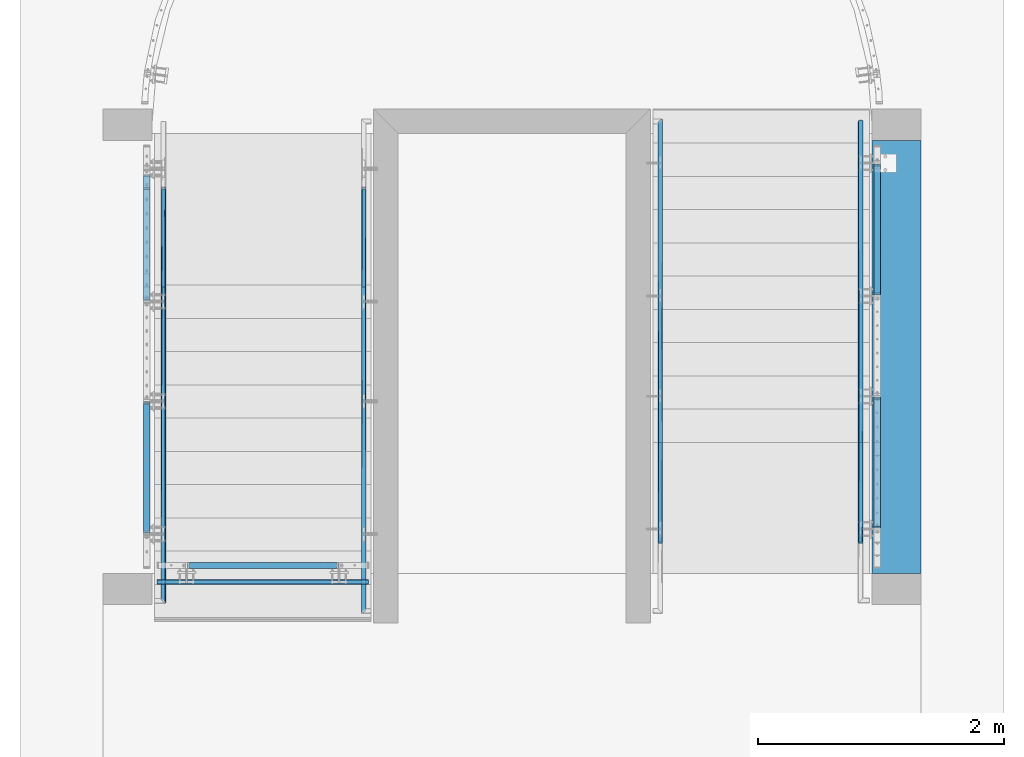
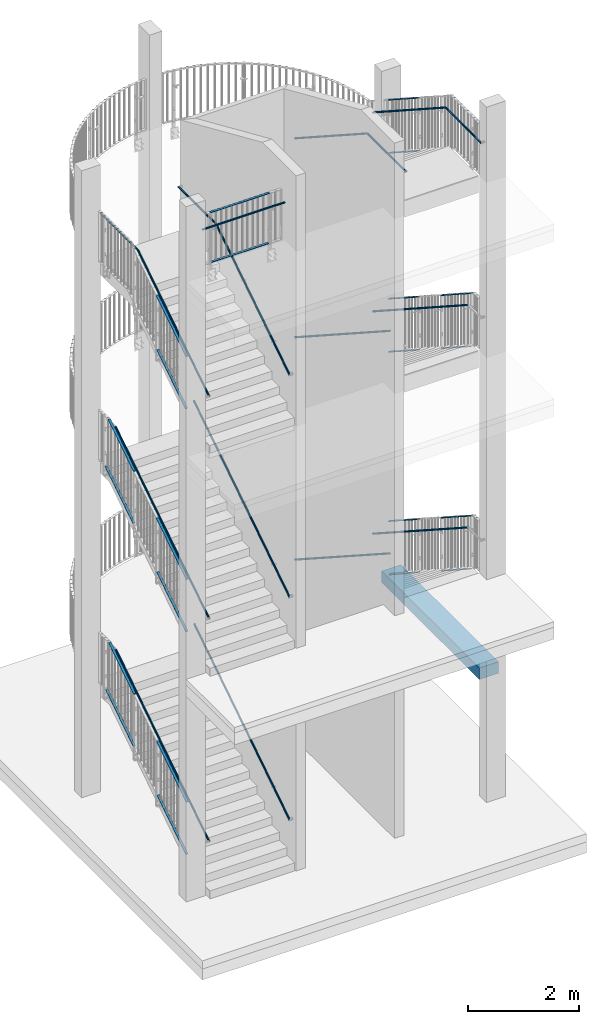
# One storey, part 97 of 296: 32 members, 8 beams, 18 openings.
"""IFC2X3 building model written with IfcOpenShell, lengths in millimetres."""

from ifc_helpers import new_model, entity, si_unit, converted_unit, frame, origin, origin_with_axes, origin_2d, place, context, project, spatial, polyline, rectangle, circle, outline, extrude, clip, halfspace, material, element, save


model = new_model("IFC2X3")

# Units and contexts
model_context = context("Model", 3, precision=1e-09, world=origin_with_axes())
ifc_project = project(units=[si_unit("LENGTHUNIT", "METRE", prefix="MILLI"), si_unit("AREAUNIT", "SQUARE_METRE"), si_unit("VOLUMEUNIT", "CUBIC_METRE"), converted_unit("PLANEANGLEUNIT", "DEGREE", entity("IfcPlaneAngleMeasure", 0.01745329), si_unit("PLANEANGLEUNIT", "RADIAN"), dimensions=[0, 0, 0, 0, 0, 0, 0])], contexts=[model_context])

# Site, building, storey
site_placement = place(None, origin_with_axes())
site = spatial("IfcSite", under=ifc_project, at=site_placement, Name="TZD-S?d | Treppenhausgel?nder", CompositionType="ELEMENT")
building_placement = place(site_placement, origin_with_axes())
building = spatial("IfcBuilding", under=site, at=building_placement, Name="Struktur 1", CompositionType="ELEMENT")
storey_placement = place(building_placement, origin_with_axes())
storey = spatial("IfcBuildingStorey", under=building, at=storey_placement, Name="Default Storey", CompositionType="ELEMENT", Elevation=0.0)

# Beam
ifc_material_1 = material(Name="Buche")
beam_1_placement = place(None, frame((5759.999, -4035.0, 14530.0), z_axis=(0.0, 1.0, 0.0), x_axis=(-1.0, 0.0, 0.0)))
element("IfcBeam", 1, at=beam_1_placement, inside=storey, material=ifc_material_1, Name="Girder", ObjectType="Girder", context=model_context, shape_type="Clipping", body=[
    clip(clip(extrude(circle(Radius=20.0, at=origin_2d()), origin(), (0.0, 0.0, 1.0), 1348.580744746), halfspace(frame((5759.999, -12625.389934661, -2411.226600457), z_axis=(0.0, 0.28335204, -0.959015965), x_axis=(-1.0, 0.0, 0.0)), True)), halfspace(frame((882.500207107, -14530.0, -842.498792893), z_axis=(0.707106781, 0.0, 0.707106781), x_axis=(0.707106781, 0.0, -0.707106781)), True)),
])

# Member, openings
ifc_material_2 = material(Name="S235JR")
member_1_placement = place(None, frame((5894.999, -2339.781959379, 10126.420200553), z_axis=(0.0, -0.839339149, 0.543608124), x_axis=(0.0, 0.543608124, 0.839339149)))
member_1 = element("IfcMember", 2, at=member_1_placement, inside=storey, material=ifc_material_2, Name="Gel?nder", ObjectType="Gel?nder", context=model_context, shape_type="SweptSolid", body=[
    extrude(rectangle(XDim=10.0, YDim=50.0, at=origin_2d()), origin(), (0.0, 0.0, 1.0), 1275.332006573),
])
opening_1_placement = place(member_1_placement, frame((-57.039935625, -125.1, 1289.186750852), z_axis=(0.0, -1.0, 0.0), x_axis=(0.543608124, 0.0, -0.839339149)))
element("IfcOpeningElement", 3, at=opening_1_placement, cuts=member_1, ObjectType="Opening", context=model_context, shape_type="SweptSolid", body=[
    extrude(outline(polyline([(0.0, 0.0), (45.355242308, 0.0), (45.355242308, 97.114539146), (0.0, 97.114539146), (0.0, 0.0)])), origin(), (0.0, 0.0, -1.0), 250.2),
])
opening_2_placement = place(member_1_placement, frame((-22.243971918, -125.1, -11.167075), z_axis=(0.0, -1.0, 0.0), x_axis=(0.543608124, 0.0, -0.839339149)))
element("IfcOpeningElement", 4, at=opening_2_placement, cuts=member_1, ObjectType="Opening", context=model_context, shape_type="SweptSolid", body=[
    extrude(outline(polyline([(0.0, 0.0), (59.906110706, 0.0), (59.906110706, 69.241991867), (0.0, 69.241991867), (0.0, 0.0)])), origin(), (0.0, 0.0, -1.0), 250.2),
])

member_2_placement = place(None, frame((5894.999, -2339.785202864, 5230.957383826), z_axis=(0.0, -0.83975893, 0.542959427), x_axis=(0.0, 0.542959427, 0.83975893)))
member_2 = element("IfcMember", 5, at=member_2_placement, inside=storey, material=ifc_material_2, Name="Gel?nder", ObjectType="Gel?nder", context=model_context, shape_type="SweptSolid", body=[
    extrude(rectangle(XDim=10.0, YDim=50.0, at=origin_2d()), origin(), (0.0, 0.0, 1.0), 1274.686765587),
])
opening_3_placement = place(member_2_placement, frame((-46.62468055, -125.1, 1281.136074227), z_axis=(0.0, -1.0, 0.0), x_axis=(0.542959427, 0.0, -0.83975893)))
element("IfcOpeningElement", 6, at=opening_3_placement, cuts=member_2, ObjectType="Opening", context=model_context, shape_type="SweptSolid", body=[
    extrude(outline(polyline([(0.0, 0.0), (33.446971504, 0.0), (33.446971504, 92.393563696), (0.0, 92.393563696), (0.0, 0.0)])), origin(), (0.0, 0.0, -1.0), 250.2),
])
opening_4_placement = place(member_2_placement, frame((-21.673046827, -125.1, -10.779031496), z_axis=(0.0, -1.0, 0.0), x_axis=(0.542959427, 0.0, -0.83975893)))
element("IfcOpeningElement", 7, at=opening_4_placement, cuts=member_2, ObjectType="Opening", context=model_context, shape_type="SweptSolid", body=[
    extrude(outline(polyline([(0.0, 0.0), (69.537327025, 0.0), (69.537327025, 62.287180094), (0.0, 62.287180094), (0.0, 0.0)])), origin(), (0.0, 0.0, -1.0), 250.2),
])

# Members
member_3_placement = place(None, frame((5894.999, -2324.504902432, 8948.439965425), z_axis=(0.0, -0.839339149, 0.543608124), x_axis=(0.0, 0.543608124, 0.839339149)))
element("IfcMember", 8, at=member_3_placement, inside=storey, material=ifc_material_2, Name="-", ObjectType="-", context=model_context, shape_type="Clipping", body=[
    clip(clip(extrude(rectangle(XDim=10.0, YDim=50.0, at=origin_2d()), origin(), (0.0, 0.0, 1.0), 1311.734590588), halfspace(frame((-7528.712933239, 5894.999, -4836.749748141), z_axis=(-0.543608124, 0.0, 0.839339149), x_axis=(0.0, -1.0, 0.0)), True)), halfspace(frame((-8091.346254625, 5894.999, -3968.03540748), z_axis=(0.543608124, 0.0, -0.839339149), x_axis=(0.0, 1.0, 0.0)), True)),
])
member_4_placement = place(None, frame((5894.999, -2324.504902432, 4052.985843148), z_axis=(0.0, -0.83975893, 0.542959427), x_axis=(0.0, 0.542959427, 0.83975893)))
element("IfcMember", 9, at=member_4_placement, inside=storey, material=ifc_material_2, Name="-", ObjectType="-", context=model_context, shape_type="Clipping", body=[
    clip(clip(extrude(rectangle(XDim=10.0, YDim=50.0, at=origin_2d()), origin(), (0.0, 0.0, 1.0), 1311.078877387), halfspace(frame((-3983.408518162, 5894.999, -1303.749291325), z_axis=(0.542959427, 0.0, -0.83975893), x_axis=(0.0, 1.0, 0.0)), True)), halfspace(frame((-3421.446596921, 5894.999, -2172.898104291), z_axis=(-0.542959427, 0.0, 0.83975893), x_axis=(0.0, -1.0, 0.0)), True)),
])

# Member, openings
member_5_placement = place(None, frame((5894.999, -444.781959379, 8899.100592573), z_axis=(0.0, -0.839339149, 0.543608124), x_axis=(0.0, 0.543608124, 0.839339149)))
member_5 = element("IfcMember", 10, at=member_5_placement, inside=storey, material=ifc_material_2, Name="Gel?nder", ObjectType="Gel?nder", context=model_context, shape_type="SweptSolid", body=[
    extrude(rectangle(XDim=10.0, YDim=50.0, at=origin_2d()), origin(), (0.0, 0.0, 1.0), 1275.332006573),
])
opening_5_placement = place(member_5_placement, frame((-48.117682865, -125.1, 1290.569399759), z_axis=(0.0, -1.0, 0.0), x_axis=(0.543608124, 0.0, -0.839339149)))
element("IfcOpeningElement", 11, at=opening_5_placement, cuts=member_5, ObjectType="Opening", context=model_context, shape_type="SweptSolid", body=[
    extrude(outline(polyline([(0.0, 0.0), (41.665544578, 0.0), (41.665544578, 95.903761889), (0.0, 95.903761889), (0.0, 0.0)])), origin(), (0.0, 0.0, -1.0), 250.2),
])
opening_6_placement = place(member_5_placement, frame((-22.028465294, -125.1, -11.027499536), z_axis=(0.0, -1.0, 0.0), x_axis=(0.543608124, 0.0, -0.839339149)))
element("IfcOpeningElement", 12, at=opening_6_placement, cuts=member_5, ObjectType="Opening", context=model_context, shape_type="SweptSolid", body=[
    extrude(outline(polyline([(0.0, 0.0), (62.160781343, 0.0), (62.160781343, 63.27907124), (0.0, 63.27907124), (0.0, 0.0)])), origin(), (0.0, 0.0, -1.0), 250.2),
])

# Member
member_6_placement = place(None, frame((5894.999, -429.504902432, 7721.120357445), z_axis=(0.0, -0.839339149, 0.543608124), x_axis=(0.0, 0.543608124, 0.839339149)))
element("IfcMember", 13, at=member_6_placement, inside=storey, material=ifc_material_2, Name="-", ObjectType="-", context=model_context, shape_type="Clipping", body=[
    clip(clip(extrude(rectangle(XDim=10.0, YDim=50.0, at=origin_2d()), origin(), (0.0, 0.0, 1.0), 1311.734590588), halfspace(frame((-6498.575537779, 5894.999, -4169.568838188), z_axis=(-0.543608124, 0.0, 0.839339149), x_axis=(0.0, -1.0, 0.0)), True)), halfspace(frame((-7061.208859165, 5894.999, -3300.854497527), z_axis=(0.543608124, 0.0, -0.839339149), x_axis=(0.0, 1.0, 0.0)), True)),
])

# Member, openings
member_7_placement = place(None, frame((5894.999, -444.785202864, 4005.715141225), z_axis=(0.0, -0.83975893, 0.542959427), x_axis=(0.0, 0.542959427, 0.83975893)))
member_7 = element("IfcMember", 14, at=member_7_placement, inside=storey, material=ifc_material_2, Name="Gel?nder", ObjectType="Gel?nder", context=model_context, shape_type="SweptSolid", body=[
    extrude(rectangle(XDim=10.0, YDim=50.0, at=origin_2d()), origin(), (0.0, 0.0, 1.0), 1274.686765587),
])
opening_7_placement = place(member_7_placement, frame((-43.659875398, -125.1, 1289.802512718), z_axis=(0.0, -1.0, 0.0), x_axis=(0.542959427, 0.0, -0.83975893)))
element("IfcOpeningElement", 15, at=opening_7_placement, cuts=member_7, ObjectType="Opening", context=model_context, shape_type="SweptSolid", body=[
    extrude(outline(polyline([(0.0, 0.0), (39.11492171, 0.0), (39.11492171, 86.474298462), (0.0, 86.474298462), (0.0, 0.0)])), origin(), (0.0, 0.0, -1.0), 250.2),
])
opening_8_placement = place(member_7_placement, frame((-21.641225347, -125.1, -10.758456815), z_axis=(0.0, -1.0, 0.0), x_axis=(0.542959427, 0.0, -0.83975893)))
element("IfcOpeningElement", 16, at=opening_8_placement, cuts=member_7, ObjectType="Opening", context=model_context, shape_type="SweptSolid", body=[
    extrude(outline(polyline([(0.0, 0.0), (83.04330204, 0.0), (83.04330204, 59.686232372), (0.0, 59.686232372), (0.0, 0.0)])), origin(), (0.0, 0.0, -1.0), 250.2),
])

# Members
member_8_placement = place(None, frame((5894.999, -464.802675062, 2850.565934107), z_axis=(0.0, -0.83975893, 0.542959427), x_axis=(0.0, 0.542959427, 0.83975893)))
element("IfcMember", 17, at=member_8_placement, inside=storey, material=ifc_material_2, Name="-", ObjectType="-", context=model_context, shape_type="Clipping", body=[
    clip(clip(extrude(rectangle(XDim=10.0, YDim=50.0, at=origin_2d()), origin(), (0.0, 0.0, 1.0), 1269.045656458), halfspace(frame((-2954.500403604, 5894.999, -680.525686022), z_axis=(0.542959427, 0.0, -0.83975893), x_axis=(0.0, 1.0, 0.0)), True)), halfspace(frame((-2503.209385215, 5894.999, -712.177188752), z_axis=(-0.28305571, 0.0, 0.959103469), x_axis=(0.0, -1.0, 0.0)), True)),
])
member_9_placement = place(None, frame((5759.999, -2740.669390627, 14546.028811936), z_axis=(0.0, 0.839423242, -0.543478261), x_axis=(-1.0, 0.0, 0.0)))
element("IfcMember", 18, at=member_9_placement, inside=storey, material=ifc_material_1, Name="Girder", ObjectType="Girder", context=model_context, shape_type="Clipping", body=[
    clip(extrude(circle(Radius=20.0, at=origin_2d()), origin(), (0.0, 0.0, 1.0), 3145.814003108), halfspace(frame((5759.999, -12625.38993466, 3759.807345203), z_axis=(0.0, 0.28335204, 0.959015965), x_axis=(1.0, 0.0, 0.0)), True)),
])
member_10_placement = place(None, frame((5759.999, -3555.669046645, 10696.03325267), z_axis=(0.0, 0.839334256, -0.54361568), x_axis=(-1.0, 0.0, 0.0)))
element("IfcMember", 19, at=member_10_placement, inside=storey, material=ifc_material_1, Name="Girder", ObjectType="Girder", context=model_context, shape_type="Clipping", body=[
    clip(extrude(circle(Radius=20.0, at=origin_2d()), origin(), (0.0, 0.0, 1.0), 4117.13095894), halfspace(frame((5759.999, -8862.314546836, 2648.753958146), z_axis=(0.0, 0.283430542, 0.958992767), x_axis=(1.0, 0.0, 0.0)), True)),
])
member_11_placement = place(None, frame((5759.999, -3550.670315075, 5796.012048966), z_axis=(0.0, 0.83975893, -0.542959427), x_axis=(-1.0, 0.0, 0.0)))
element("IfcMember", 20, at=member_11_placement, inside=storey, material=ifc_material_1, Name="Girder", ObjectType="Girder", context=model_context, shape_type="Clipping", body=[
    clip(extrude(circle(Radius=20.0, at=origin_2d()), origin(), (0.0, 0.0, 1.0), 4109.120120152), halfspace(frame((5759.999, -4359.691194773, 1316.146587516), z_axis=(0.0, 0.28305571, 0.959103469), x_axis=(1.0, 0.0, 0.0)), True)),
])

# Member, openings
member_12_placement = place(None, frame((5894.999, -444.782608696, 13277.443605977), z_axis=(0.0, -0.839423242, 0.543478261), x_axis=(0.0, 0.543478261, 0.839423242)))
member_12 = element("IfcMember", 21, at=member_12_placement, inside=storey, material=ifc_material_2, Name="Gel?nder", ObjectType="Gel?nder", context=model_context, shape_type="SweptSolid", body=[
    extrude(rectangle(XDim=10.0, YDim=50.0, at=origin_2d()), origin(), (0.0, 0.0, 1.0), 1275.202696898),
])
opening_9_placement = place(member_12_placement, frame((-41.262342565, -125.1, 1282.464819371), z_axis=(0.0, -1.0, 0.0), x_axis=(0.543478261, 0.0, -0.839423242)))
element("IfcOpeningElement", 22, at=opening_9_placement, cuts=member_12, ObjectType="Opening", context=model_context, shape_type="SweptSolid", body=[
    extrude(outline(polyline([(0.0, 0.0), (31.239571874, 0.0), (31.239571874, 89.189663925), (0.0, 89.189663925), (0.0, 0.0)])), origin(), (0.0, 0.0, -1.0), 250.2),
])
opening_10_placement = place(member_12_placement, frame((-21.675435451, -125.1, -10.79519389), z_axis=(0.0, -1.0, 0.0), x_axis=(0.543478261, 0.0, -0.839423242)))
element("IfcOpeningElement", 23, at=opening_10_placement, cuts=member_12, ObjectType="Opening", context=model_context, shape_type="SweptSolid", body=[
    extrude(outline(polyline([(0.0, 0.0), (46.647040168, 0.0), (46.647040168, 72.283656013), (0.0, 72.283656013), (0.0, 0.0)])), origin(), (0.0, 0.0, -1.0), 250.2),
])

# Member
member_13_placement = place(None, frame((5894.999, -429.504902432, 12099.465111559), z_axis=(0.0, -0.839423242, 0.543478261), x_axis=(0.0, 0.543478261, 0.839423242)))
element("IfcMember", 24, at=member_13_placement, inside=storey, material=ifc_material_2, Name="-", ObjectType="-", context=model_context, shape_type="Clipping", body=[
    clip(clip(extrude(rectangle(XDim=10.0, YDim=50.0, at=origin_2d()), origin(), (0.0, 0.0, 1.0), 1311.603181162), halfspace(frame((-10737.003810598, 5894.999, -5679.297187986), z_axis=(0.543478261, 0.0, -0.839423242), x_axis=(0.0, 1.0, 0.0)), True)), halfspace(frame((-10174.504897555, 5894.999, -6548.098565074), z_axis=(-0.543478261, 0.0, 0.839423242), x_axis=(0.0, -1.0, 0.0)), True)),
])

# Beam
beam_2_placement = place(None, frame((1720.0, -1471.581244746, 12605.0), z_axis=(0.0, 1.0, 0.0), x_axis=(-1.0, 0.0, 0.0)))
element("IfcBeam", 25, at=beam_2_placement, inside=storey, material=ifc_material_1, Name="Girder", ObjectType="Girder", context=model_context, shape_type="Clipping", body=[
    clip(clip(extrude(circle(Radius=20.0, at=origin_2d()), origin(), (0.0, 0.0, 1.0), 1411.582245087), halfspace(frame((910.000206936, -12605.0, 2281.58103781), z_axis=(0.707106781, 0.0, -0.707106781), x_axis=(-0.707106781, 0.0, -0.707106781)), True)), halfspace(frame((1720.0, -11984.836504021, 3570.54863821), z_axis=(0.0, 0.28335204, 0.959015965), x_axis=(1.0, 0.0, 0.0)), True)),
])

# Members
member_14_placement = place(None, frame((1720.0, -4113.576929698, 10875.364747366), z_axis=(0.0, 0.839423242, 0.543478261), x_axis=(-1.0, 0.0, 0.0)))
element("IfcMember", 26, at=member_14_placement, inside=storey, material=ifc_material_1, Name="Girder", ObjectType="Girder", context=model_context, shape_type="Clipping", body=[
    clip(clip(extrude(circle(Radius=20.0, at=origin_2d()), origin(), (0.0, 0.0, 1.0), 3212.02187881), halfspace(frame((2108.746824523, -11364.673574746, -2068.74541031), z_axis=(0.707106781, 0.0, 0.707106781), x_axis=(0.642933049, 0.416262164, -0.642933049)), True)), halfspace(frame((1720.0, -11984.836504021, -358.526759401), z_axis=(0.0, 0.28335204, -0.959015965), x_axis=(-1.0, 0.0, 0.0)), True)),
])
member_15_placement = place(None, frame((1720.0, -4113.610416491, 5984.82841699), z_axis=(0.0, 0.840260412, 0.542183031), x_axis=(-1.0, 0.0, 0.0)))
element("IfcMember", 27, at=member_15_placement, inside=storey, material=ifc_material_1, Name="Girder", ObjectType="Girder", context=model_context, shape_type="Clipping", body=[
    clip(clip(extrude(circle(Radius=20.0, at=origin_2d()), origin(), (0.0, 0.0, 1.0), 4170.469059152), halfspace(frame((774.184921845, -7259.144158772, -734.183507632), z_axis=(0.707106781, 0.0, 0.707106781), x_axis=(0.643308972, 0.415098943, -0.643308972)), True)), halfspace(frame((1720.0, -7744.571296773, 1859.252933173), z_axis=(0.0, 0.282612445, -0.959234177), x_axis=(-1.0, 0.0, 0.0)), True)),
])
member_16_placement = place(None, frame((1720.0, -4113.556705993, 1082.375960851), z_axis=(0.0, 0.83891765, 0.544258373), x_axis=(-1.0, 0.0, 0.0)))
element("IfcMember", 28, at=member_16_placement, inside=storey, material=ifc_material_1, Name="Girder", ObjectType="Girder", context=model_context, shape_type="Clipping", body=[
    clip(clip(extrude(circle(Radius=20.0, at=origin_2d()), origin(), (0.0, 0.0, 1.0), 4159.193825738), halfspace(frame((1720.0, -3238.429705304, 3171.228388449), z_axis=(0.0, 0.283797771, -0.958884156), x_axis=(-1.0, 0.0, 0.0)), True)), halfspace(frame((-550.920865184, -3146.861978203, 590.922279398), z_axis=(0.707106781, 0.0, 0.707106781), x_axis=(0.642705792, 0.416963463, -0.642705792)), True)),
])

# Beam
beam_3_placement = place(None, frame((4129.999, -4120.0, 14530.0), z_axis=(0.0, -1.0, 0.0), x_axis=(1.0, 0.0, 0.0)))
element("IfcBeam", 29, at=beam_3_placement, inside=storey, material=ifc_material_1, Name="Girder", ObjectType="Girder", context=model_context, shape_type="Clipping", body=[
    clip(clip(extrude(circle(Radius=20.0, at=origin_2d()), origin(), (0.0, 0.0, -1.0), 1433.580744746), halfspace(frame((-4129.999, -12625.38993466, 2326.226600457), z_axis=(0.0, 0.28335204, 0.959015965), x_axis=(1.0, 0.0, 0.0)), True)), halfspace(frame((-4104.998792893, -14530.0, -4145.000207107), z_axis=(0.707106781, 0.0, -0.707106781), x_axis=(-0.707106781, 0.0, -0.707106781)), True)),
])

# Members
member_17_placement = place(None, frame((4129.999, -2740.669390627, 14546.028811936), z_axis=(0.0, -0.839423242, 0.543478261), x_axis=(1.0, 0.0, 0.0)))
element("IfcMember", 30, at=member_17_placement, inside=storey, material=ifc_material_1, Name="Girder", ObjectType="Girder", context=model_context, shape_type="Clipping", body=[
    clip(clip(extrude(circle(Radius=20.0, at=origin_2d()), origin(), (0.0, 0.0, -1.0), 3185.814003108), halfspace(frame((1465.110219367, -10720.780436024, -4610.922808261), z_axis=(0.707106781, 0.0, 0.707106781), x_axis=(0.642933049, 0.416262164, -0.642933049)), True)), halfspace(frame((-4129.999, -12625.38993466, -3759.807345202), z_axis=(0.0, 0.28335204, -0.959015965), x_axis=(-1.0, 0.0, 0.0)), True)),
])
member_18_placement = place(None, frame((4129.999, -3555.669046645, 10696.03325267), z_axis=(0.0, -0.839334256, 0.54361568), x_axis=(1.0, 0.0, 0.0)))
element("IfcMember", 31, at=member_18_placement, inside=storey, material=ifc_material_1, Name="Girder", ObjectType="Girder", context=model_context, shape_type="Clipping", body=[
    clip(clip(extrude(circle(Radius=20.0, at=origin_2d()), origin(), (0.0, 0.0, -1.0), 4157.13095894), halfspace(frame((275.898838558, -7044.629660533, -4393.028383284), z_axis=(0.707106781, 0.0, 0.707106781), x_axis=(0.642893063, 0.416385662, -0.642893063)), True)), halfspace(frame((-4129.999, -8862.314546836, -2648.753958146), z_axis=(0.0, 0.283430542, -0.958992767), x_axis=(-1.0, 0.0, 0.0)), True)),
])
member_19_placement = place(None, frame((4129.999, -3550.670315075, 5796.012048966), z_axis=(0.0, -0.83975893, 0.542959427), x_axis=(1.0, 0.0, 0.0)))
element("IfcMember", 32, at=member_19_placement, inside=storey, material=ifc_material_1, Name="Girder", ObjectType="Girder", context=model_context, shape_type="Clipping", body=[
    clip(clip(extrude(circle(Radius=20.0, at=origin_2d()), origin(), (0.0, 0.0, -1.0), 4149.120120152), halfspace(frame((-1055.205609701, -2939.382955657, -3053.913096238), z_axis=(0.707106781, 0.0, 0.707106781), x_axis=(0.643083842, 0.415796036, -0.643083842)), True)), halfspace(frame((-4129.999, -4359.691194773, -1316.146587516), z_axis=(0.0, 0.28305571, -0.959103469), x_axis=(-1.0, 0.0, 0.0)), True)),
])

# Beams
beam_4_placement = place(None, frame((287.499999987, -3710.001, 14745.0), z_axis=(1.0, 0.0, 0.0), x_axis=(0.0, 0.0, 1.0)))
element("IfcBeam", 33, at=beam_4_placement, inside=storey, material=ifc_material_2, Name="Gel?nder", ObjectType="Gel?nder", context=model_context, shape_type="SweptSolid", body=[
    extrude(rectangle(XDim=10.0, YDim=50.0, at=origin_2d()), origin(), (0.0, 0.0, 1.0), 1225.001414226),
])
beam_5_placement = place(None, frame((1497.501414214, -3710.001, 13645.0), z_axis=(1.0, 0.0, 0.0), x_axis=(0.0, 0.0, 1.0)))
element("IfcBeam", 34, at=beam_5_placement, inside=storey, material=ifc_material_2, Name="-", ObjectType="-", context=model_context, shape_type="SweptSolid", body=[
    extrude(rectangle(XDim=10.0, YDim=50.0, at=origin_2d()), origin(), (0.0, 0.0, -1.0), 1195.001414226),
])
beam_6_placement = place(None, frame((1760.001414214, -3845.001, 14530.0), z_axis=(-1.0, 0.0, 0.0), x_axis=(0.0, -1.0, 0.0)))
element("IfcBeam", 35, at=beam_6_placement, inside=storey, material=ifc_material_1, Name="Girder", ObjectType="Girder", context=model_context, shape_type="SweptSolid", body=[
    extrude(circle(Radius=20.0, at=origin_2d()), origin(), (0.0, 0.0, 1.0), 1720.001414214),
])
ifc_material_3 = material(Name="C20/25")
beam_7_placement = place(None, frame((6050.0, -255.0, 2677.499), z_axis=(0.0, 1.0, 0.0), x_axis=(0.0, 0.0, 1.0)))
element("IfcBeam", 36, at=beam_7_placement, inside=storey, material=ifc_material_3, Name="Column", ObjectType="Column", context=model_context, shape_type="SweptSolid", body=[
    extrude(outline(polyline([(127.5, -200.0), (127.5, 200.0), (-127.5, 200.0), (-127.5, -200.0), (127.5, -200.0)])), origin(), (0.0, 0.0, -1.0), 3520.0),
])

# Member, opening
member_20_placement = place(None, frame((-45.0, -616.192943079, 8459.409463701), z_axis=(0.0, 0.840260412, 0.542183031), x_axis=(0.0, -0.542183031, 0.840260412)))
member_20 = element("IfcMember", 37, at=member_20_placement, inside=storey, material=ifc_material_2, Name="Gel?nder", ObjectType="Gel?nder", context=model_context, shape_type="Clipping", body=[
    clip(extrude(rectangle(XDim=10.0, YDim=50.0, at=origin_2d()), origin(), (0.0, 0.0, -1.0), 1117.532086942), halfspace(frame((-7943.597337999, 45.0, -2366.946065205), z_axis=(0.282612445, 0.0, -0.959234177), x_axis=(0.0, 1.0, 0.0)), True)),
])
opening_11_placement = place(member_20_placement, frame((0.0, 125.1, -1117.532086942), z_axis=(0.0, -1.0, 0.0), x_axis=(0.542183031, 0.0, -0.840260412)))
element("IfcOpeningElement", 38, at=opening_11_placement, cuts=member_20, ObjectType="Opening", context=model_context, shape_type="SweptSolid", body=[
    extrude(outline(polyline([(-2.711915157, -38.542597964), (52.848460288, -38.542597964), (52.848460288, 40.527888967), (-2.711915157, 40.527888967), (-2.711915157, -38.542597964)])), origin(), (0.0, 0.0, 1.0), 250.2),
])

member_21_placement = place(None, frame((-45.0, -631.215315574, 3559.468903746), z_axis=(0.0, 0.83891765, 0.544258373), x_axis=(0.0, -0.544258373, 0.83891765)))
member_21 = element("IfcMember", 39, at=member_21_placement, inside=storey, material=ifc_material_2, Name="Gel?nder", ObjectType="Gel?nder", context=model_context, shape_type="Clipping", body=[
    clip(extrude(rectangle(XDim=10.0, YDim=50.0, at=origin_2d()), origin(), (0.0, 0.0, -1.0), 1113.346436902), halfspace(frame((-3437.321470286, 45.0, -1043.922004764), z_axis=(0.283797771, 0.0, -0.958884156), x_axis=(0.0, 1.0, 0.0)), True)),
])
opening_12_placement = place(member_21_placement, frame((0.0, 125.1, -1113.346436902), z_axis=(0.0, -1.0, 0.0), x_axis=(0.544258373, 0.0, -0.83891765)))
element("IfcOpeningElement", 40, at=opening_12_placement, cuts=member_21, ObjectType="Opening", context=model_context, shape_type="SweptSolid", body=[
    extrude(outline(polyline([(-2.722291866, -41.02987211), (40.774070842, -41.02987211), (40.774070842, 31.125272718), (-2.722291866, 31.125272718), (-2.722291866, -41.02987211)])), origin(), (0.0, 0.0, 1.0), 250.2),
])

# Members
member_22_placement = place(None, frame((-45.0, -510.65509025, 7359.409463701), z_axis=(0.0, 0.840260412, 0.542183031), x_axis=(0.0, -0.542183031, 0.840260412)))
element("IfcMember", 41, at=member_22_placement, inside=storey, material=ifc_material_2, Name="-", ObjectType="-", context=model_context, shape_type="Clipping", body=[
    clip(clip(extrude(rectangle(XDim=10.0, YDim=50.0, at=origin_2d()), origin(), (0.0, 0.0, -1.0), 1261.323265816), halfspace(frame((-6902.84369477, 45.0, -2060.31611135), z_axis=(0.282612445, 0.0, -0.959234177), x_axis=(0.0, 1.0, 0.0)), True)), halfspace(frame((-5627.08308608, 45.0, -4852.963219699), z_axis=(-0.542183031, 0.0, 0.840260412), x_axis=(0.0, -1.0, 0.0)), True)),
])
member_23_placement = place(None, frame((-45.0, -526.277266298, 2459.468903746), z_axis=(0.0, 0.83891765, 0.544258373), x_axis=(0.0, -0.544258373, 0.83891765)))
element("IfcMember", 42, at=member_23_placement, inside=storey, material=ifc_material_2, Name="-", ObjectType="-", context=model_context, shape_type="Clipping", body=[
    clip(clip(extrude(rectangle(XDim=10.0, YDim=50.0, at=origin_2d()), origin(), (0.0, 0.0, -1.0), 1256.640424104), halfspace(frame((-2397.360056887, 45.0, -736.128065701), z_axis=(0.283797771, 0.0, -0.958884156), x_axis=(0.0, 1.0, 0.0)), True)), halfspace(frame((-1507.483393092, 45.0, -2195.307481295), z_axis=(-0.544258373, 0.0, 0.83891765), x_axis=(0.0, -1.0, 0.0)), True)),
])

# Member, openings
member_24_placement = place(None, frame((-45.0, -2384.778708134, 2421.82260492), z_axis=(0.0, 0.83891765, 0.544258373), x_axis=(0.0, -0.544258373, 0.83891765)))
member_24 = element("IfcMember", 43, at=member_24_placement, inside=storey, material=ifc_material_2, Name="Gel?nder", ObjectType="Gel?nder", context=model_context, shape_type="SweptSolid", body=[
    extrude(rectangle(XDim=10.0, YDim=50.0, at=origin_2d()), origin(), (0.0, 0.0, -1.0), 1275.984017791),
])
opening_13_placement = place(member_24_placement, frame((0.0, 125.1, -1275.984017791), z_axis=(0.0, -1.0, 0.0), x_axis=(0.544258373, 0.0, -0.83891765)))
element("IfcOpeningElement", 44, at=opening_13_placement, cuts=member_24, ObjectType="Opening", context=model_context, shape_type="SweptSolid", body=[
    extrude(outline(polyline([(-2.725221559, -28.416656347), (34.779884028, -28.416656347), (34.779884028, 38.973370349), (-2.725221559, 38.973370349), (-2.725221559, -28.416656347)])), origin(), (0.0, 0.0, 1.0), 250.2),
])
opening_14_placement = place(member_24_placement, frame((0.0, 125.1, 0.0), z_axis=(0.0, -1.0, 0.0), x_axis=(0.544258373, 0.0, -0.83891765)))
element("IfcOpeningElement", 45, at=opening_14_placement, cuts=member_24, ObjectType="Opening", context=model_context, shape_type="SweptSolid", body=[
    extrude(outline(polyline([(-31.497903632, -54.412079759), (2.722291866, -54.412079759), (2.722291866, 64.93319267), (-31.497903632, 64.93319267), (-31.497903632, -54.412079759)])), origin(), (0.0, 0.0, 1.0), 250.2),
])

# Member
member_25_placement = place(None, frame((-45.0, -2369.504902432, 1263.651799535), z_axis=(0.0, 0.83891765, 0.544258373), x_axis=(0.0, -0.544258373, 0.83891765)))
element("IfcMember", 46, at=member_25_placement, inside=storey, material=ifc_material_2, Name="-", ObjectType="-", context=model_context, shape_type="Clipping", body=[
    clip(clip(extrude(rectangle(XDim=10.0, YDim=50.0, at=origin_2d()), origin(), (0.0, 0.0, -1.0), 1312.393648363), halfspace(frame((-1042.141395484, 45.0, -715.434081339), z_axis=(0.544258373, 0.0, -0.83891765), x_axis=(0.0, 1.0, 0.0)), True)), halfspace(frame((-478.835067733, 45.0, -1583.712171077), z_axis=(-0.544258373, 0.0, 0.83891765), x_axis=(0.0, -1.0, 0.0)), True)),
])

# Member, openings
member_26_placement = place(None, frame((-45.0, -2374.789084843, 7324.66483769), z_axis=(0.0, 0.840260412, 0.542183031), x_axis=(0.0, -0.542183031, 0.840260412)))
member_26 = element("IfcMember", 47, at=member_26_placement, inside=storey, material=ifc_material_2, Name="Gel?nder", ObjectType="Gel?nder", context=model_context, shape_type="SweptSolid", body=[
    extrude(rectangle(XDim=10.0, YDim=50.0, at=origin_2d()), origin(), (0.0, 0.0, -1.0), 1285.817842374),
])
opening_15_placement = place(member_26_placement, frame((0.0, 125.1, 0.0), z_axis=(0.0, -1.0, 0.0), x_axis=(0.542183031, 0.0, -0.840260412)))
element("IfcOpeningElement", 48, at=opening_15_placement, cuts=member_26, ObjectType="Opening", context=model_context, shape_type="SweptSolid", body=[
    extrude(outline(polyline([(-23.720746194, -29.412779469), (2.711915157, -29.412779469), (2.711915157, 66.179417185), (-23.720746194, 66.179417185), (-23.720746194, -29.412779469)])), origin(), (0.0, 0.0, 1.0), 250.2),
])
opening_16_placement = place(member_26_placement, frame((0.0, 125.1, -1285.817842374), z_axis=(0.0, -1.0, 0.0), x_axis=(0.542183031, 0.0, -0.840260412)))
element("IfcOpeningElement", 49, at=opening_16_placement, cuts=member_26, ObjectType="Opening", context=model_context, shape_type="SweptSolid", body=[
    extrude(outline(polyline([(-2.711915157, -14.769621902), (40.904571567, -14.769621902), (40.904571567, 44.641912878), (-2.711915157, 44.641912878), (-2.711915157, -14.769621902)])), origin(), (0.0, 0.0, 1.0), 250.2),
])

# Member
member_27_placement = place(None, frame((-45.0, -2359.504902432, 6166.428119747), z_axis=(0.0, 0.840260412, 0.542183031), x_axis=(0.0, -0.542183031, 0.840260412)))
element("IfcMember", 50, at=member_27_placement, inside=storey, material=ifc_material_2, Name="-", ObjectType="-", context=model_context, shape_type="Clipping", body=[
    clip(clip(extrude(rectangle(XDim=10.0, YDim=50.0, at=origin_2d()), origin(), (0.0, 0.0, -1.0), 1322.197474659), halfspace(frame((-5163.515509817, 45.0, -3371.05800578), z_axis=(0.542183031, 0.0, -0.840260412), x_axis=(0.0, 1.0, 0.0)), True)), halfspace(frame((-4596.935326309, 45.0, -4249.128456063), z_axis=(-0.542183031, 0.0, 0.840260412), x_axis=(0.0, -1.0, 0.0)), True)),
])

# Member, openings
member_28_placement = place(None, frame((-45.0, -2374.782608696, 12219.003456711), z_axis=(0.0, 0.839423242, 0.543478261), x_axis=(0.0, -0.543478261, 0.839423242)))
member_28 = element("IfcMember", 51, at=member_28_placement, inside=storey, material=ifc_material_2, Name="Gel?nder", ObjectType="Gel?nder", context=model_context, shape_type="SweptSolid", body=[
    extrude(rectangle(XDim=10.0, YDim=50.0, at=origin_2d()), origin(), (0.0, 0.0, -1.0), 1275.202696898),
])
opening_17_placement = place(member_28_placement, frame((0.0, 125.1, 0.0), z_axis=(0.0, -1.0, 0.0), x_axis=(0.543478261, 0.0, -0.839423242)))
element("IfcOpeningElement", 52, at=opening_17_placement, cuts=member_28, ObjectType="Opening", context=model_context, shape_type="SweptSolid", body=[
    extrude(outline(polyline([(-34.542160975, -35.430941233), (2.718391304, -35.430941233), (2.718391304, 46.770389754), (-34.542160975, 46.770389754), (-34.542160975, -35.430941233)])), origin(), (0.0, 0.0, 1.0), 250.2),
])
opening_18_placement = place(member_28_placement, frame((0.0, 125.1, -1275.202696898), z_axis=(0.0, -1.0, 0.0), x_axis=(0.543478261, 0.0, -0.839423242)))
element("IfcOpeningElement", 53, at=opening_18_placement, cuts=member_28, ObjectType="Opening", context=model_context, shape_type="SweptSolid", body=[
    extrude(outline(polyline([(-2.718391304, -24.377267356), (42.662989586, -24.377267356), (42.662989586, 45.674203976), (-2.718391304, 45.674203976), (-2.718391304, -24.377267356)])), origin(), (0.0, 0.0, 1.0), 250.2),
])

# Members
member_29_placement = place(None, frame((-45.0, -2359.504902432, 11060.807834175), z_axis=(0.0, 0.839423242, 0.543478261), x_axis=(0.0, -0.543478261, 0.839423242)))
element("IfcMember", 54, at=member_29_placement, inside=storey, material=ifc_material_2, Name="-", ObjectType="-", context=model_context, shape_type="Clipping", body=[
    clip(clip(extrude(rectangle(XDim=10.0, YDim=50.0, at=origin_2d()), origin(), (0.0, 0.0, -1.0), 1311.603181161), halfspace(frame((-9266.766514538, 45.0, -6039.006296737), z_axis=(0.543478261, 0.0, -0.839423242), x_axis=(0.0, 1.0, 0.0)), True)), halfspace(frame((-8704.267601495, 45.0, -6907.807673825), z_axis=(-0.543478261, 0.0, 0.839423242), x_axis=(0.0, -1.0, 0.0)), True)),
])
member_30_placement = place(None, frame((90.0, -4031.788464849, 10928.318073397), z_axis=(0.0, -0.839423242, -0.543478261), x_axis=(1.0, 0.0, 0.0)))
element("IfcMember", 55, at=member_30_placement, inside=storey, material=ifc_material_1, Name="Girder", ObjectType="Girder", context=model_context, shape_type="Clipping", body=[
    clip(clip(extrude(circle(Radius=20.0, at=origin_2d()), origin(), (0.0, 0.0, -1.0), 3114.587758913), halfspace(frame((1252.463884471, -11364.673574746, 1212.462470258), z_axis=(0.707106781, 0.0, -0.707106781), x_axis=(-0.642933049, -0.416262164, -0.642933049)), True)), halfspace(frame((-90.0, -11984.836504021, 455.960879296), z_axis=(0.0, 0.28335204, 0.959015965), x_axis=(1.0, 0.0, 0.0)), True)),
])
member_31_placement = place(None, frame((90.0, -4031.778352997, 1135.430695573), z_axis=(0.0, -0.83891765, -0.544258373), x_axis=(1.0, 0.0, 0.0)))
element("IfcMember", 56, at=member_31_placement, inside=storey, material=ifc_material_1, Name="Girder", ObjectType="Girder", context=model_context, shape_type="Clipping", body=[
    clip(clip(extrude(circle(Radius=20.0, at=origin_2d()), origin(), (0.0, 0.0, -1.0), 4061.713038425), halfspace(frame((-1407.180471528, -3146.861978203, -1447.181885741), z_axis=(0.707106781, 0.0, -0.707106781), x_axis=(-0.642705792, -0.416963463, -0.642705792)), True)), halfspace(frame((-90.0, -3238.429705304, -3073.747601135), z_axis=(0.0, 0.283797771, 0.958884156), x_axis=(1.0, 0.0, 0.0)), True)),
])
member_32_placement = place(None, frame((90.0, -4031.805208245, 6037.613714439), z_axis=(0.0, -0.840260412, -0.542183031), x_axis=(1.0, 0.0, 0.0)))
element("IfcMember", 57, at=member_32_placement, inside=storey, material=ifc_material_1, Name="Girder", ObjectType="Girder", context=model_context, shape_type="Clipping", body=[
    clip(clip(extrude(circle(Radius=20.0, at=origin_2d()), origin(), (0.0, 0.0, -1.0), 4073.11208856), halfspace(frame((-90.0, -7744.571296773, -1761.895962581), z_axis=(0.0, 0.282612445, 0.959234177), x_axis=(1.0, 0.0, 0.0)), True)), halfspace(frame((-82.136592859, -7259.144158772, -122.138007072), z_axis=(0.707106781, 0.0, -0.707106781), x_axis=(-0.643308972, -0.415098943, -0.643308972)), True)),
])

# Beam
beam_8_placement = place(None, frame((90.0, -1471.581244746, 12605.0), z_axis=(0.0, -1.0, 0.0), x_axis=(1.0, 0.0, 0.0)))
element("IfcBeam", 58, at=beam_8_placement, inside=storey, material=ifc_material_1, Name="Girder", ObjectType="Girder", context=model_context, shape_type="Clipping", body=[
    clip(extrude(circle(Radius=20.0, at=origin_2d()), origin(), (0.0, 0.0, -1.0), 1371.582245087), halfspace(frame((-90.0, -11984.836504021, -3570.54863821), z_axis=(0.0, 0.28335204, -0.959015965), x_axis=(-1.0, 0.0, 0.0)), True)),
])

save(model, "model.ifc")
